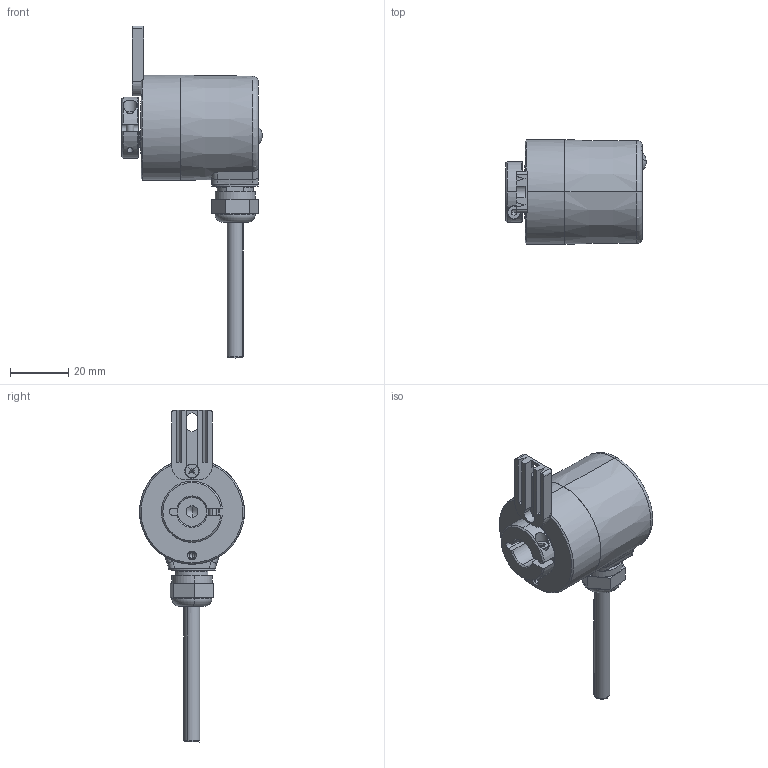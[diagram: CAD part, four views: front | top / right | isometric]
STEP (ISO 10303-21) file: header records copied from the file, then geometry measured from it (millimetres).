
FILE_DESCRIPTION (( 'STEP AP203' ), '1' );
FILE_NAME ('8.3671.26X2.STEP', '2013-06-13T07:27:53', ( 'LauferA' ), ( 'Microsoft' ), 'SwSTEP 2.0', 'SolidWorks 2012', '' );
FILE_SCHEMA (( 'CONFIG_CONTROL_DESIGN' ));
Length unit declared in the file: millimetre
Products named in the file (1): 8.3671.26X2
Bounding box: 48.19 x 36 x 113.9 mm (x, y, z)
Volume: 24115.1 mm3; surface area: 23569.4 mm2
Topology: 11 solids, 11 shells, 579 faces, 1329 edges, 804 vertices
Faces by surface type: cylinder 194, plane 157, cone 125, torus 79, bspline 14, sphere 10
Entity records: 17196 total; most frequent: CARTESIAN_POINT 3899, DIRECTION 2990, ORIENTED_EDGE 2614, EDGE_CURVE 1307, AXIS2_PLACEMENT_3D 1246, VERTEX_POINT 804, CIRCLE 680, EDGE_LOOP 651
